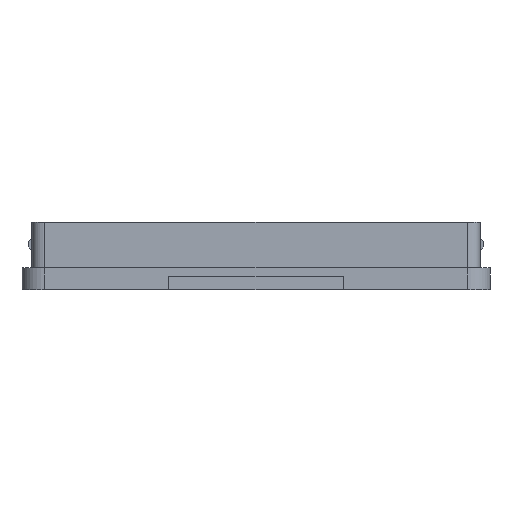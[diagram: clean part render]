
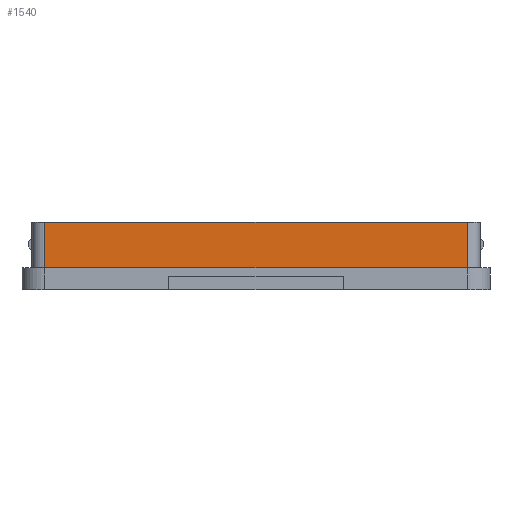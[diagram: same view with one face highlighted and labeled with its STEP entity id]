
A CAD part, left-side view. The second image highlights one B-rep face of the part: STEP entity #1540.
In plain terms, the highlighted planar face has unit normal (-1, 0, 0).
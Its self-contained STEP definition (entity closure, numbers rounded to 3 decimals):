
#100 = PLANE('',#101);
#101 = AXIS2_PLACEMENT_3D('',#102,#103,#104);
#102 = CARTESIAN_POINT('',(0.,0.,5.));
#103 = DIRECTION('',(0.,0.,1.));
#104 = DIRECTION('',(1.,0.,-0.));
#964 = EDGE_CURVE('',#965,#967,#969,.T.);
#965 = VERTEX_POINT('',#966);
#966 = CARTESIAN_POINT('',(-72.,48.5,5.));
#967 = VERTEX_POINT('',#968);
#968 = CARTESIAN_POINT('',(-72.,-48.5,5.));
#969 = SURFACE_CURVE('',#970,(#974,#980),.PCURVE_S1.);
#970 = LINE('',#971,#972);
#971 = CARTESIAN_POINT('',(-72.,-24.25,5.));
#972 = VECTOR('',#973,1.);
#973 = DIRECTION('',(0.,-1.,0.));
#974 = PCURVE('',#100,#975);
#975 = DEFINITIONAL_REPRESENTATION('',(#976),#979);
#976 = B_SPLINE_CURVE_WITH_KNOTS('',1,(#977,#978),.UNSPECIFIED.,.F.,.F.,
  (2,2),(-72.75,24.25),.PIECEWISE_BEZIER_KNOTS.);
#977 = CARTESIAN_POINT('',(-72.,48.5));
#978 = CARTESIAN_POINT('',(-72.,-48.5));
#979 = ( GEOMETRIC_REPRESENTATION_CONTEXT(2) 
PARAMETRIC_REPRESENTATION_CONTEXT() REPRESENTATION_CONTEXT('2D SPACE',''
  ) );
#980 = PCURVE('',#981,#986);
#981 = PLANE('',#982);
#982 = AXIS2_PLACEMENT_3D('',#983,#984,#985);
#983 = CARTESIAN_POINT('',(-72.,-48.5,4.99));
#984 = DIRECTION('',(-1.,0.,0.));
#985 = DIRECTION('',(0.,1.,0.));
#986 = DEFINITIONAL_REPRESENTATION('',(#987),#990);
#987 = B_SPLINE_CURVE_WITH_KNOTS('',1,(#988,#989),.UNSPECIFIED.,.F.,.F.,
  (2,2),(-72.75,24.25),.PIECEWISE_BEZIER_KNOTS.);
#988 = CARTESIAN_POINT('',(97.,-0.01));
#989 = CARTESIAN_POINT('',(0.,-0.01));
#990 = ( GEOMETRIC_REPRESENTATION_CONTEXT(2) 
PARAMETRIC_REPRESENTATION_CONTEXT() REPRESENTATION_CONTEXT('2D SPACE',''
  ) );
#1013 = CYLINDRICAL_SURFACE('',#1014,3.);
#1014 = AXIS2_PLACEMENT_3D('',#1015,#1016,#1017);
#1015 = CARTESIAN_POINT('',(-69.,48.5,4.99));
#1016 = DIRECTION('',(-0.,-0.,-1.));
#1017 = DIRECTION('',(1.,0.,0.));
#1188 = CYLINDRICAL_SURFACE('',#1189,3.);
#1189 = AXIS2_PLACEMENT_3D('',#1190,#1191,#1192);
#1190 = CARTESIAN_POINT('',(-69.,-48.5,4.99));
#1191 = DIRECTION('',(-0.,-0.,-1.));
#1192 = DIRECTION('',(1.,0.,0.));
#1540 = ADVANCED_FACE('',(#1541),#981,.T.);
#1541 = FACE_BOUND('',#1542,.T.);
#1542 = EDGE_LOOP('',(#1543,#1544,#1567,#1595));
#1543 = ORIENTED_EDGE('',*,*,#964,.T.);
#1544 = ORIENTED_EDGE('',*,*,#1545,.T.);
#1545 = EDGE_CURVE('',#967,#1546,#1548,.T.);
#1546 = VERTEX_POINT('',#1547);
#1547 = CARTESIAN_POINT('',(-72.,-48.5,15.4));
#1548 = SURFACE_CURVE('',#1549,(#1553,#1560),.PCURVE_S1.);
#1549 = LINE('',#1550,#1551);
#1550 = CARTESIAN_POINT('',(-72.,-48.5,4.99));
#1551 = VECTOR('',#1552,1.);
#1552 = DIRECTION('',(0.,0.,1.));
#1553 = PCURVE('',#981,#1554);
#1554 = DEFINITIONAL_REPRESENTATION('',(#1555),#1559);
#1555 = LINE('',#1556,#1557);
#1556 = CARTESIAN_POINT('',(0.,0.));
#1557 = VECTOR('',#1558,1.);
#1558 = DIRECTION('',(0.,-1.));
#1559 = ( GEOMETRIC_REPRESENTATION_CONTEXT(2) 
PARAMETRIC_REPRESENTATION_CONTEXT() REPRESENTATION_CONTEXT('2D SPACE',''
  ) );
#1560 = PCURVE('',#1188,#1561);
#1561 = DEFINITIONAL_REPRESENTATION('',(#1562),#1566);
#1562 = LINE('',#1563,#1564);
#1563 = CARTESIAN_POINT('',(-3.142,0.));
#1564 = VECTOR('',#1565,1.);
#1565 = DIRECTION('',(-0.,-1.));
#1566 = ( GEOMETRIC_REPRESENTATION_CONTEXT(2) 
PARAMETRIC_REPRESENTATION_CONTEXT() REPRESENTATION_CONTEXT('2D SPACE',''
  ) );
#1567 = ORIENTED_EDGE('',*,*,#1568,.T.);
#1568 = EDGE_CURVE('',#1546,#1569,#1571,.T.);
#1569 = VERTEX_POINT('',#1570);
#1570 = CARTESIAN_POINT('',(-72.,48.5,15.4));
#1571 = SURFACE_CURVE('',#1572,(#1576,#1583),.PCURVE_S1.);
#1572 = LINE('',#1573,#1574);
#1573 = CARTESIAN_POINT('',(-72.,0.,15.4));
#1574 = VECTOR('',#1575,1.);
#1575 = DIRECTION('',(0.,1.,0.));
#1576 = PCURVE('',#981,#1577);
#1577 = DEFINITIONAL_REPRESENTATION('',(#1578),#1582);
#1578 = LINE('',#1579,#1580);
#1579 = CARTESIAN_POINT('',(48.5,-10.41));
#1580 = VECTOR('',#1581,1.);
#1581 = DIRECTION('',(1.,0.));
#1582 = ( GEOMETRIC_REPRESENTATION_CONTEXT(2) 
PARAMETRIC_REPRESENTATION_CONTEXT() REPRESENTATION_CONTEXT('2D SPACE',''
  ) );
#1583 = PCURVE('',#1584,#1589);
#1584 = PLANE('',#1585);
#1585 = AXIS2_PLACEMENT_3D('',#1586,#1587,#1588);
#1586 = CARTESIAN_POINT('',(0.,0.,15.4
    ));
#1587 = DIRECTION('',(0.,0.,1.));
#1588 = DIRECTION('',(1.,0.,-0.));
#1589 = DEFINITIONAL_REPRESENTATION('',(#1590),#1594);
#1590 = LINE('',#1591,#1592);
#1591 = CARTESIAN_POINT('',(-72.,0.));
#1592 = VECTOR('',#1593,1.);
#1593 = DIRECTION('',(0.,1.));
#1594 = ( GEOMETRIC_REPRESENTATION_CONTEXT(2) 
PARAMETRIC_REPRESENTATION_CONTEXT() REPRESENTATION_CONTEXT('2D SPACE',''
  ) );
#1595 = ORIENTED_EDGE('',*,*,#1596,.F.);
#1596 = EDGE_CURVE('',#965,#1569,#1597,.T.);
#1597 = SURFACE_CURVE('',#1598,(#1602,#1609),.PCURVE_S1.);
#1598 = LINE('',#1599,#1600);
#1599 = CARTESIAN_POINT('',(-72.,48.5,4.99));
#1600 = VECTOR('',#1601,1.);
#1601 = DIRECTION('',(0.,0.,1.));
#1602 = PCURVE('',#981,#1603);
#1603 = DEFINITIONAL_REPRESENTATION('',(#1604),#1608);
#1604 = LINE('',#1605,#1606);
#1605 = CARTESIAN_POINT('',(97.,0.));
#1606 = VECTOR('',#1607,1.);
#1607 = DIRECTION('',(0.,-1.));
#1608 = ( GEOMETRIC_REPRESENTATION_CONTEXT(2) 
PARAMETRIC_REPRESENTATION_CONTEXT() REPRESENTATION_CONTEXT('2D SPACE',''
  ) );
#1609 = PCURVE('',#1013,#1610);
#1610 = DEFINITIONAL_REPRESENTATION('',(#1611),#1615);
#1611 = LINE('',#1612,#1613);
#1612 = CARTESIAN_POINT('',(-3.142,0.));
#1613 = VECTOR('',#1614,1.);
#1614 = DIRECTION('',(-0.,-1.));
#1615 = ( GEOMETRIC_REPRESENTATION_CONTEXT(2) 
PARAMETRIC_REPRESENTATION_CONTEXT() REPRESENTATION_CONTEXT('2D SPACE',''
  ) );
